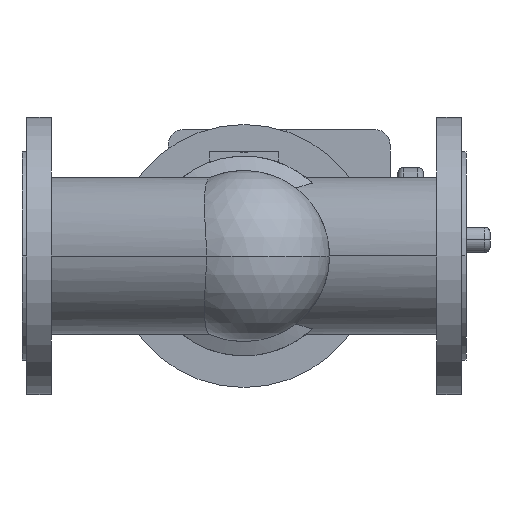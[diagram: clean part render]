
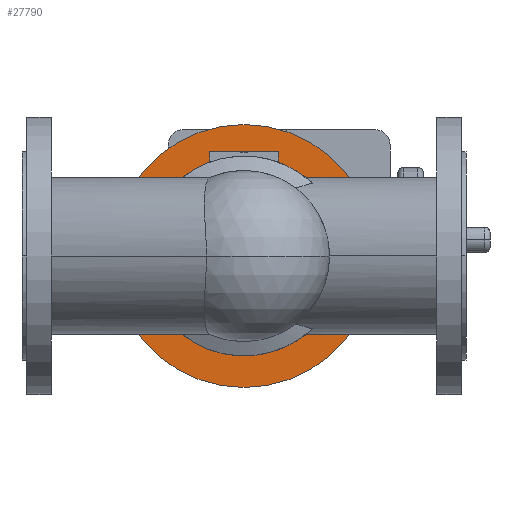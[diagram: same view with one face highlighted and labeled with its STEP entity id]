
A CAD part, front view. The second image highlights one B-rep face of the part: STEP entity #27790.
In plain terms, the highlighted planar face has unit normal (0, -1, 0).
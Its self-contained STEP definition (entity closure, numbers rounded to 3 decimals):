
#1340=CARTESIAN_POINT('',(318.5,114.2,0.));
#1350=VERTEX_POINT('',#1340);
#1400=CARTESIAN_POINT('',(200.,114.2,0.));
#1410=DIRECTION('',(0.,-1.,0.));
#1420=DIRECTION('',(-1.,0.,0.));
#1430=AXIS2_PLACEMENT_3D('',#1400,#1410,#1420);
#1440=CIRCLE('',#1430,118.5);
#1450=CARTESIAN_POINT('',(81.5,114.2,0.));
#1460=VERTEX_POINT('',#1450);
#1470=EDGE_CURVE('',#1350,#1460,#1440,.T.);
#1780=CARTESIAN_POINT('',(110.,114.2,0.));
#1790=VERTEX_POINT('',#1780);
#1820=CARTESIAN_POINT('',(200.,114.2,0.));
#1830=DIRECTION('',(0.,-1.,0.));
#1840=DIRECTION('',(-1.,0.,0.));
#1850=AXIS2_PLACEMENT_3D('',#1820,#1830,#1840);
#1860=CIRCLE('',#1850,90.);
#1870=CARTESIAN_POINT('',(290.,114.2,0.));
#1880=VERTEX_POINT('',#1870);
#1890=EDGE_CURVE('',#1880,#1790,#1860,.T.);
#27640=CARTESIAN_POINT('',(95.75,114.2,0.));
#27650=DIRECTION('',(0.,-1.,0.));
#27660=DIRECTION('',(-1.,0.,0.));
#27670=AXIS2_PLACEMENT_3D('',#27640,#27650,#27660);
#27680=PLANE('',#27670);
#27690=ORIENTED_EDGE('',*,*,#1890,.F.);
#27700=EDGE_CURVE('',#1790,#1880,#1860,.T.);
#27710=ORIENTED_EDGE('',*,*,#27700,.F.);
#27720=EDGE_LOOP('',(#27710,#27690));
#27730=FACE_BOUND('',#27720,.T.);
#27740=EDGE_CURVE('',#1460,#1350,#1440,.T.);
#27750=ORIENTED_EDGE('',*,*,#27740,.T.);
#27760=ORIENTED_EDGE('',*,*,#1470,.T.);
#27770=EDGE_LOOP('',(#27760,#27750));
#27780=FACE_OUTER_BOUND('',#27770,.T.);
#27790=ADVANCED_FACE('',(#27730,#27780),#27680,.T.);
